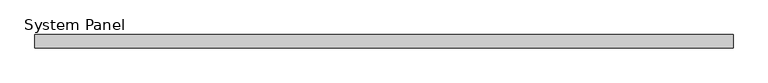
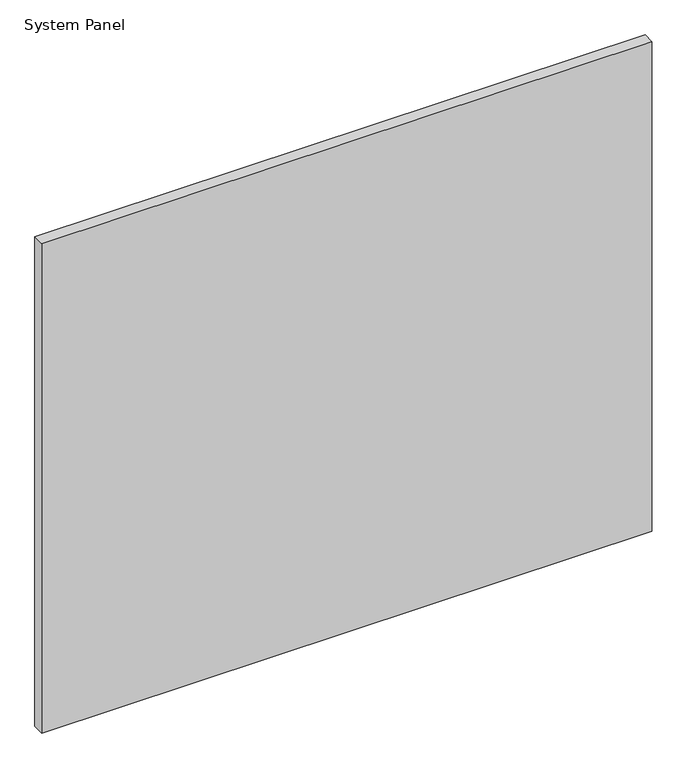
"""IFC4 building model written with IfcOpenShell, lengths in millimetres: plate geometry, System Panel : Glazed - ACMP (AL-1)."""

from ifc_helpers import new_model, si_unit, origin, origin_with_axes, place, context, project, spatial, polyline, outline, extrude, source, transform, mapped, element, save


def system_panel_486147db(model_context):
    return source(origin(), model_context, "Body", "SweptSolid", [
        extrude(outline(polyline([(663.2041426, -25.4), (-663.2041426, -25.4), (-663.2041426, 0.0), (663.2041426, 0.0), (663.2041426, -25.4)])), origin_with_axes(), (0.0, 0.0, 1.0), 1124.7926944),
    ])


if __name__ == "__main__":
    model = new_model("IFC4")
    model_context = context("Model", 3, world=origin())
    ifc_project = project(units=[si_unit("LENGTHUNIT", "METRE", prefix="MILLI")], contexts=[model_context])
    site = spatial("IfcSite", under=ifc_project)
    building = spatial("IfcBuilding", under=site)
    placement = place(None, origin())
    system_panel_shape = system_panel_486147db(model_context)
    element("IfcPlate", 1, ObjectType="System Panel : Glazed - ACMP (AL-1)", at=placement, inside=building, context=model_context, shape_type="MappedRepresentation", body=[
        mapped(system_panel_shape, transform((0.0, 0.0, 0.0), x_axis=(1.0, 0.0, 0.0), y_axis=(0.0, 1.0, 0.0), z_axis=(0.0, 0.0, 1.0))),
    ])
    save(model, "model.ifc")
